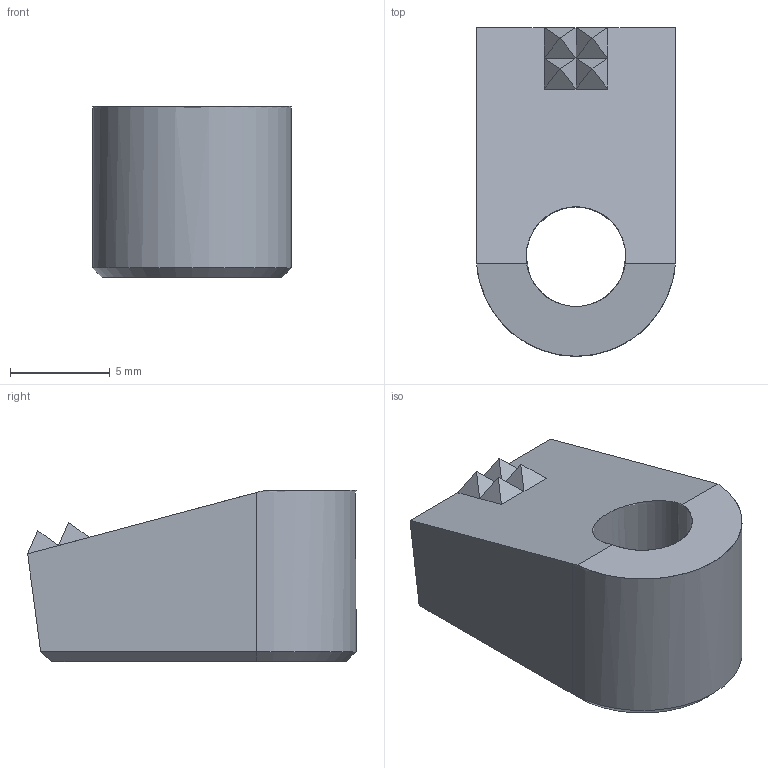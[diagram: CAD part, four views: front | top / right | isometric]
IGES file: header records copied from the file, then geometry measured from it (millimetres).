
Start section: SolidWorks IGES FILE using analytic representation for surfaces
Global section: file name: C:\WIX2\Positioning\3550\3550W009.igs; native system: SolidWorks 2003 by SolidWorks Corporation; preprocessor: Version 5.3; author: Joan; date: 030722.164442; units: millimetre
Bounding box: 10 x 16.5 x 8.58 mm (x, y, z)
Surface area: 734.1 mm2 (no closed solid volume)
Topology: 0 solids, 0 shells, 29 faces, 225 edges, 225 vertices
Faces by surface type: bspline 25, revolution 4
